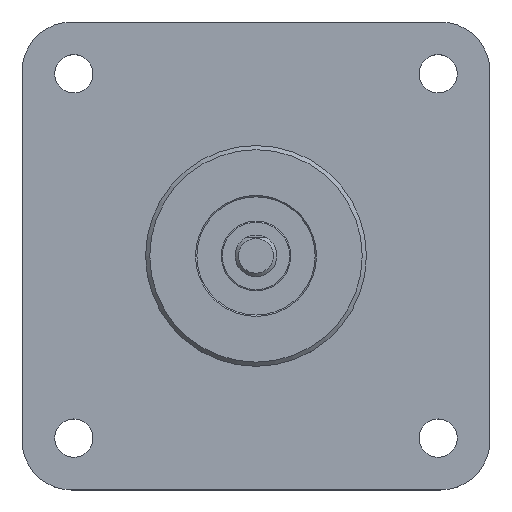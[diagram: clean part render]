
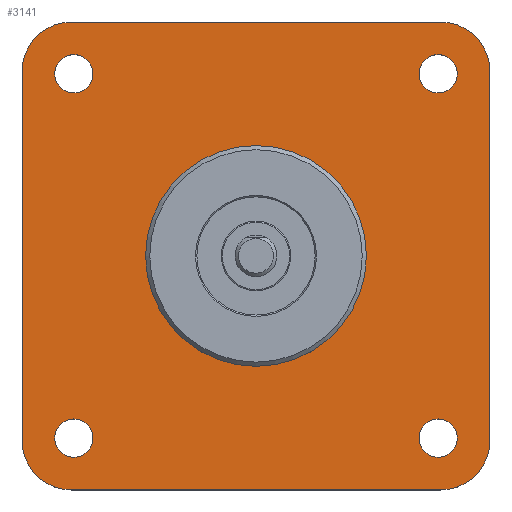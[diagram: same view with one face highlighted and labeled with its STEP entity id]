
A CAD part, top view. The second image highlights one B-rep face of the part: STEP entity #3141.
In plain terms, the highlighted planar face has unit normal (0, 0, 1).
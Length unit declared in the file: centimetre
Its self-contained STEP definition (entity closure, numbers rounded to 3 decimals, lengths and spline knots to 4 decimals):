
#162=VECTOR('',#5063,1.);
#163=VECTOR('',#5066,1.);
#164=VECTOR('',#5069,1.);
#165=VECTOR('',#5072,1.);
#274=LINE('',#3990,#162);
#275=LINE('',#3995,#163);
#276=LINE('',#3999,#164);
#277=LINE('',#4003,#165);
#498=PLANE('',#3434);
#619=VERTEX_POINT('',#3981);
#620=VERTEX_POINT('',#3983);
#621=VERTEX_POINT('',#3985);
#622=VERTEX_POINT('',#3987);
#623=VERTEX_POINT('',#3989);
#624=VERTEX_POINT('',#3991);
#625=VERTEX_POINT('',#3992);
#626=VERTEX_POINT('',#3994);
#627=VERTEX_POINT('',#3996);
#628=VERTEX_POINT('',#3998);
#629=VERTEX_POINT('',#4000);
#630=VERTEX_POINT('',#4002);
#631=VERTEX_POINT('',#4004);
#923=CIRCLE('',#3435,1.5875);
#924=CIRCLE('',#3436,0.275);
#925=CIRCLE('',#3437,0.275);
#926=CIRCLE('',#3438,0.275);
#927=CIRCLE('',#3439,0.275);
#928=CIRCLE('',#3440,0.71);
#929=CIRCLE('',#3441,0.71);
#930=CIRCLE('',#3442,0.71);
#931=CIRCLE('',#3443,0.71);
#1168=EDGE_CURVE('',#619,#619,#923,.T.);
#1169=EDGE_CURVE('',#620,#620,#924,.T.);
#1170=EDGE_CURVE('',#621,#621,#925,.T.);
#1171=EDGE_CURVE('',#622,#622,#926,.T.);
#1172=EDGE_CURVE('',#623,#623,#927,.T.);
#1173=EDGE_CURVE('',#624,#625,#274,.T.);
#1174=EDGE_CURVE('',#625,#626,#928,.T.);
#1175=EDGE_CURVE('',#626,#627,#275,.T.);
#1176=EDGE_CURVE('',#627,#628,#929,.T.);
#1177=EDGE_CURVE('',#628,#629,#276,.T.);
#1178=EDGE_CURVE('',#629,#630,#930,.T.);
#1179=EDGE_CURVE('',#630,#631,#277,.T.);
#1180=EDGE_CURVE('',#631,#624,#931,.T.);
#1551=ORIENTED_EDGE('',*,*,#1168,.T.);
#1552=ORIENTED_EDGE('',*,*,#1169,.F.);
#1553=ORIENTED_EDGE('',*,*,#1170,.F.);
#1554=ORIENTED_EDGE('',*,*,#1171,.F.);
#1555=ORIENTED_EDGE('',*,*,#1172,.F.);
#1556=ORIENTED_EDGE('',*,*,#1173,.T.);
#1557=ORIENTED_EDGE('',*,*,#1174,.T.);
#1558=ORIENTED_EDGE('',*,*,#1175,.T.);
#1559=ORIENTED_EDGE('',*,*,#1176,.T.);
#1560=ORIENTED_EDGE('',*,*,#1177,.T.);
#1561=ORIENTED_EDGE('',*,*,#1178,.T.);
#1562=ORIENTED_EDGE('',*,*,#1179,.T.);
#1563=ORIENTED_EDGE('',*,*,#1180,.T.);
#2297=EDGE_LOOP('',(#1551));
#2298=EDGE_LOOP('',(#1552));
#2299=EDGE_LOOP('',(#1553));
#2300=EDGE_LOOP('',(#1554));
#2301=EDGE_LOOP('',(#1555));
#2302=EDGE_LOOP('',(#1556,#1557,#1558,#1559,#1560,#1561,#1562,#1563));
#2724=FACE_BOUND('',#2297,.T.);
#2725=FACE_BOUND('',#2298,.T.);
#2726=FACE_BOUND('',#2299,.T.);
#2727=FACE_BOUND('',#2300,.T.);
#2728=FACE_BOUND('',#2301,.T.);
#2729=FACE_BOUND('',#2302,.T.);
#3141=ADVANCED_FACE('',(#2724,#2725,#2726,#2727,#2728,#2729),#498,.T.);
#3434=AXIS2_PLACEMENT_3D('',#3979,#5052,$);
#3435=AXIS2_PLACEMENT_3D('',#3980,#5053,#5054);
#3436=AXIS2_PLACEMENT_3D('',#3982,#5055,#5056);
#3437=AXIS2_PLACEMENT_3D('',#3984,#5057,#5058);
#3438=AXIS2_PLACEMENT_3D('',#3986,#5059,#5060);
#3439=AXIS2_PLACEMENT_3D('',#3988,#5061,#5062);
#3440=AXIS2_PLACEMENT_3D('',#3993,#5064,#5065);
#3441=AXIS2_PLACEMENT_3D('',#3997,#5067,#5068);
#3442=AXIS2_PLACEMENT_3D('',#4001,#5070,#5071);
#3443=AXIS2_PLACEMENT_3D('',#4005,#5073,#5074);
#3979=CARTESIAN_POINT('',(0.,0.,
0.));
#3980=CARTESIAN_POINT('',(0.,0.,0.));
#3981=CARTESIAN_POINT('',(1.5875,0.,0.));
#3982=CARTESIAN_POINT('',(2.62,-2.62,0.));
#3983=CARTESIAN_POINT('',(2.895,-2.62,0.));
#3984=CARTESIAN_POINT('',(2.62,2.62,0.));
#3985=CARTESIAN_POINT('',(2.895,2.62,0.));
#3986=CARTESIAN_POINT('',(-2.62,2.62,0.));
#3987=CARTESIAN_POINT('',(-2.345,2.62,0.));
#3988=CARTESIAN_POINT('',(-2.62,-2.62,0.));
#3989=CARTESIAN_POINT('',(-2.345,-2.62,0.));
#3990=CARTESIAN_POINT('',(-3.3655,2.6555,0.));
#3991=CARTESIAN_POINT('',(-3.3655,2.6555,0.));
#3992=CARTESIAN_POINT('',(-3.3655,-2.6555,0.));
#3993=CARTESIAN_POINT('',(-2.6555,-2.6555,0.));
#3994=CARTESIAN_POINT('',(-2.6555,-3.3655,0.));
#3995=CARTESIAN_POINT('',(-2.6555,-3.3655,0.));
#3996=CARTESIAN_POINT('',(2.6555,-3.3655,0.));
#3997=CARTESIAN_POINT('',(2.6555,-2.6555,0.));
#3998=CARTESIAN_POINT('',(3.3655,-2.6555,0.));
#3999=CARTESIAN_POINT('',(3.3655,-2.6555,0.));
#4000=CARTESIAN_POINT('',(3.3655,2.6555,0.));
#4001=CARTESIAN_POINT('',(2.6555,2.6555,0.));
#4002=CARTESIAN_POINT('',(2.6555,3.3655,0.));
#4003=CARTESIAN_POINT('',(2.6555,3.3655,0.));
#4004=CARTESIAN_POINT('',(-2.6555,3.3655,0.));
#4005=CARTESIAN_POINT('',(-2.6555,2.6555,0.));
#5052=DIRECTION('',(0.,0.,1.));
#5053=DIRECTION('',(0.,0.,-1.));
#5054=DIRECTION('',(1.588,0.,0.));
#5055=DIRECTION('',(0.,0.,1.));
#5056=DIRECTION('',(0.275,0.,0.));
#5057=DIRECTION('',(0.,0.,1.));
#5058=DIRECTION('',(0.275,0.,0.));
#5059=DIRECTION('',(0.,0.,1.));
#5060=DIRECTION('',(0.275,0.,0.));
#5061=DIRECTION('',(0.,0.,1.));
#5062=DIRECTION('',(0.275,0.,0.));
#5063=DIRECTION('',(0.,-1.,0.));
#5064=DIRECTION('',(0.,0.,1.));
#5065=DIRECTION('',(0.71,0.,0.));
#5066=DIRECTION('',(1.,0.,0.));
#5067=DIRECTION('',(0.,0.,1.));
#5068=DIRECTION('',(0.71,0.,0.));
#5069=DIRECTION('',(0.,1.,0.));
#5070=DIRECTION('',(0.,0.,1.));
#5071=DIRECTION('',(0.71,0.,0.));
#5072=DIRECTION('',(-1.,0.,0.));
#5073=DIRECTION('',(0.,0.,1.));
#5074=DIRECTION('',(0.71,0.,0.));
